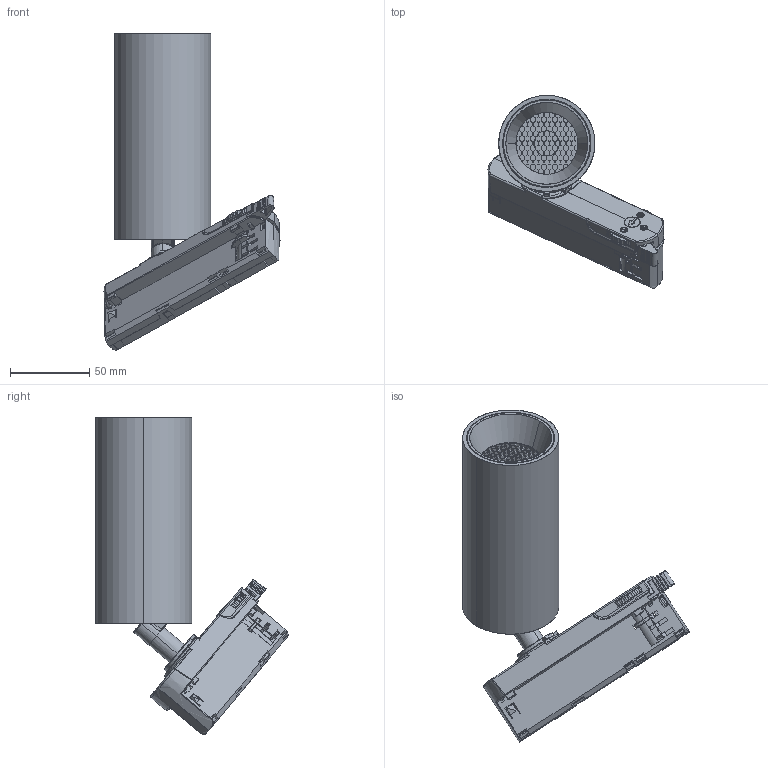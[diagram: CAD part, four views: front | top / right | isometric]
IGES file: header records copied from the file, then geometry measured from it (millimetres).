
Start section: SolidWorks IGES file using analytic representation for surfaces
Global section: file name: \\192.168.111.232\grupos\DISENYO\DESARROLLO DE PRODUCTO\PIPE-3986\WIP\PIPE TRACK - T3986100 - 60\PIPE TRACK - T3986100 - 60.IGS; native system: SolidWorks 2024; preprocessor: SolidWorks 2024; author: n.borazjanizadeh; date: 240918.125625; units: millimetre
Bounding box: 110.75 x 121.49 x 199.9 mm (x, y, z)
Surface area: 96603.8 mm2 (no closed solid volume)
Topology: 0 solids, 0 shells, 1246 faces, 12406 edges, 12381 vertices
Faces by surface type: bspline 943, revolution 303
